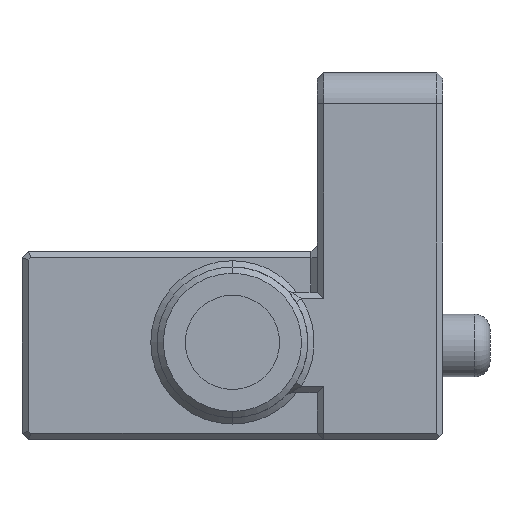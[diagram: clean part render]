
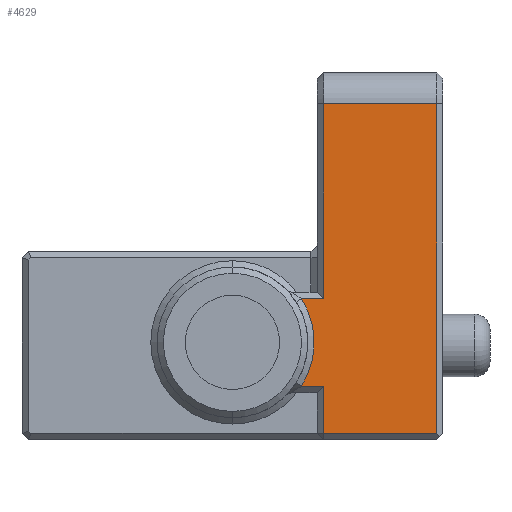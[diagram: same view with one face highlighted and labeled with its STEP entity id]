
A CAD part, front view. The second image highlights one B-rep face of the part: STEP entity #4629.
In plain terms, the highlighted planar face has unit normal (0, -1, 0).
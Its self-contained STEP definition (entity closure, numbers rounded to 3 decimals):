
#135 = CARTESIAN_POINT ( 'NONE',  ( 1.207, -4.51, 14.3 ) ) ;
#224 = CARTESIAN_POINT ( 'NONE',  ( 1.207, -4.51, 11.5 ) ) ;
#230 = CARTESIAN_POINT ( 'NONE',  ( 5.007, -4.51, 21.5 ) ) ;
#422 = CARTESIAN_POINT ( 'NONE',  ( 1.207, -4.51, 20.5 ) ) ;
#672 = DIRECTION ( 'NONE',  ( 0., 0., 1. ) ) ;
#995 = EDGE_CURVE ( 'NONE', #4822, #5375, #8900, .T. ) ;
#1029 = EDGE_CURVE ( 'NONE', #6136, #9331, #9376, .T. ) ;
#1257 = EDGE_LOOP ( 'NONE', ( #5651, #1341, #6265, #10096, #3233, #6252, #9343, #8885 ) ) ;
#1291 = VERTEX_POINT ( 'NONE', #7279 ) ;
#1341 = ORIENTED_EDGE ( 'NONE', *, *, #3489, .T. ) ;
#1499 = DIRECTION ( 'NONE',  ( 0., 1., 0. ) ) ;
#1831 = EDGE_CURVE ( 'NONE', #9331, #4343, #6890, .T. ) ;
#2327 = CARTESIAN_POINT ( 'NONE',  ( -1.493, -4.51, 12.9 ) ) ;
#2401 = LINE ( 'NONE', #8290, #4719 ) ;
#2683 = CARTESIAN_POINT ( 'NONE',  ( 1.407, -4.51, 10. ) ) ;
#3003 = EDGE_CURVE ( 'NONE', #4343, #8448, #5069, .T. ) ;
#3034 = AXIS2_PLACEMENT_3D ( 'NONE', #2327, #1499, #672 ) ;
#3155 = CARTESIAN_POINT ( 'NONE',  ( 1.407, -4.51, 20.5 ) ) ;
#3233 = ORIENTED_EDGE ( 'NONE', *, *, #3003, .T. ) ;
#3489 = EDGE_CURVE ( 'NONE', #5543, #6136, #4444, .T. ) ;
#3841 = CARTESIAN_POINT ( 'NONE',  ( 1.407, -4.51, 11.5 ) ) ;
#4208 = VECTOR ( 'NONE', #8080, 1000. ) ;
#4211 = VECTOR ( 'NONE', #7108, 1000. ) ;
#4343 = VERTEX_POINT ( 'NONE', #7468 ) ;
#4444 = LINE ( 'NONE', #9447, #7503 ) ;
#4629 = ADVANCED_FACE ( 'NONE', ( #6382 ), #6432, .F. ) ;
#4665 = DIRECTION ( 'NONE',  ( 0., 0., 1. ) ) ;
#4719 = VECTOR ( 'NONE', #4942, 1000. ) ;
#4724 = CARTESIAN_POINT ( 'NONE',  ( 1.207, -4.51, 10. ) ) ;
#4822 = VERTEX_POINT ( 'NONE', #2683 ) ;
#4942 = DIRECTION ( 'NONE',  ( 0., 0., -1. ) ) ;
#5069 = LINE ( 'NONE', #224, #8692 ) ;
#5375 = VERTEX_POINT ( 'NONE', #10305 ) ;
#5543 = VERTEX_POINT ( 'NONE', #3155 ) ;
#5651 = ORIENTED_EDGE ( 'NONE', *, *, #9845, .T. ) ;
#5707 = EDGE_CURVE ( 'NONE', #5375, #1291, #6286, .T. ) ;
#5878 = DIRECTION ( 'NONE',  ( 0., 0., -1. ) ) ;
#6136 = VERTEX_POINT ( 'NONE', #6421 ) ;
#6252 = ORIENTED_EDGE ( 'NONE', *, *, #8534, .T. ) ;
#6265 = ORIENTED_EDGE ( 'NONE', *, *, #1029, .T. ) ;
#6286 = LINE ( 'NONE', #230, #4211 ) ;
#6311 = DIRECTION ( 'NONE',  ( -1., 0., 0. ) ) ;
#6382 = FACE_OUTER_BOUND ( 'NONE', #1257, .T. ) ;
#6421 = CARTESIAN_POINT ( 'NONE',  ( 1.407, -4.51, 14.3 ) ) ;
#6432 = PLANE ( 'NONE',  #10309 ) ;
#6890 = CIRCLE ( 'NONE', #3034, 2.6 ) ;
#7108 = DIRECTION ( 'NONE',  ( 0., 0., 1. ) ) ;
#7236 = LINE ( 'NONE', #422, #9662 ) ;
#7279 = CARTESIAN_POINT ( 'NONE',  ( 5.007, -4.51, 20.5 ) ) ;
#7468 = CARTESIAN_POINT ( 'NONE',  ( 0.697, -4.51, 11.5 ) ) ;
#7503 = VECTOR ( 'NONE', #5878, 1000. ) ;
#8080 = DIRECTION ( 'NONE',  ( 1., 0., 0. ) ) ;
#8102 = CARTESIAN_POINT ( 'NONE',  ( 0.697, -4.51, 14.3 ) ) ;
#8290 = CARTESIAN_POINT ( 'NONE',  ( 1.407, -4.51, 21.5 ) ) ;
#8448 = VERTEX_POINT ( 'NONE', #3841 ) ;
#8534 = EDGE_CURVE ( 'NONE', #8448, #4822, #2401, .T. ) ;
#8692 = VECTOR ( 'NONE', #9241, 1000. ) ;
#8885 = ORIENTED_EDGE ( 'NONE', *, *, #5707, .T. ) ;
#8900 = LINE ( 'NONE', #4724, #4208 ) ;
#8956 = DIRECTION ( 'NONE',  ( 0., 1., 0. ) ) ;
#9241 = DIRECTION ( 'NONE',  ( 1., 0., 0. ) ) ;
#9331 = VERTEX_POINT ( 'NONE', #8102 ) ;
#9343 = ORIENTED_EDGE ( 'NONE', *, *, #995, .T. ) ;
#9376 = LINE ( 'NONE', #135, #10546 ) ;
#9447 = CARTESIAN_POINT ( 'NONE',  ( 1.407, -4.51, 21.5 ) ) ;
#9491 = DIRECTION ( 'NONE',  ( -1., 0., 0. ) ) ;
#9662 = VECTOR ( 'NONE', #6311, 1000. ) ;
#9845 = EDGE_CURVE ( 'NONE', #1291, #5543, #7236, .T. ) ;
#10096 = ORIENTED_EDGE ( 'NONE', *, *, #1831, .T. ) ;
#10305 = CARTESIAN_POINT ( 'NONE',  ( 5.007, -4.51, 10. ) ) ;
#10309 = AXIS2_PLACEMENT_3D ( 'NONE', #10447, #8956, #4665 ) ;
#10447 = CARTESIAN_POINT ( 'NONE',  ( 1.207, -4.51, 21.5 ) ) ;
#10546 = VECTOR ( 'NONE', #9491, 1000. ) ;
